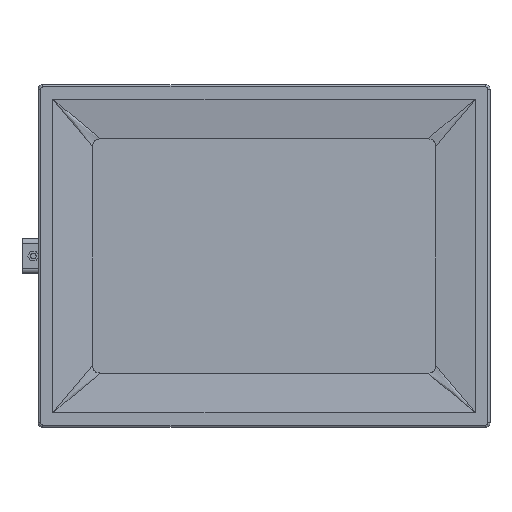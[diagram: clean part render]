
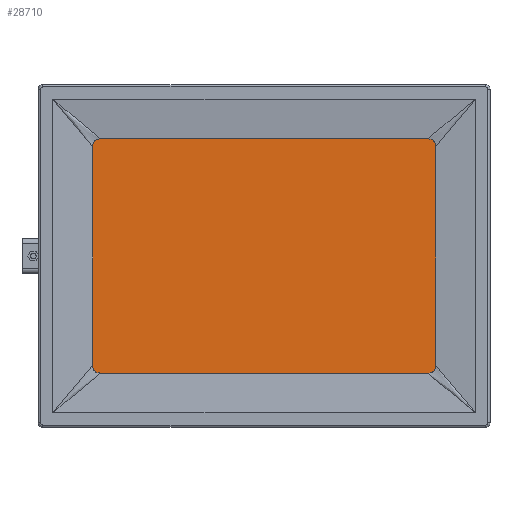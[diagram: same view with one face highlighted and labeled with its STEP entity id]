
A CAD part, top view. The second image highlights one B-rep face of the part: STEP entity #28710.
In plain terms, the highlighted planar face has unit normal (0, 0, 1).
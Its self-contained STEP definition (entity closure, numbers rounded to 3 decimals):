
#2038=DIRECTION('',(0.,-1.,0.));
#2039=VECTOR('',#2038,94.19);
#2040=CARTESIAN_POINT('',(74.036,47.095,-2.));
#2041=LINE('',#2040,#2039);
#2047=CARTESIAN_POINT('',(74.036,47.095,-2.));
#2053=CARTESIAN_POINT('',(74.036,-47.095,
-2.));
#2071=DIRECTION('',(-1.,0.,0.));
#2072=VECTOR('',#2071,141.19);
#2073=CARTESIAN_POINT('',(70.595,-50.536,
-2.));
#2074=LINE('',#2073,#2072);
#2082=CARTESIAN_POINT('',(-70.595,-50.536,
-2.));
#2083=CARTESIAN_POINT('',(-70.829,-50.536,
-2.));
#2084=CARTESIAN_POINT('',(-71.266,-50.513,
-2.));
#2085=CARTESIAN_POINT('',(-71.825,-50.42,
-2.));
#2086=CARTESIAN_POINT('',(-72.308,-50.271,
-2.));
#2087=CARTESIAN_POINT('',(-72.711,-50.074,
-2.));
#2088=CARTESIAN_POINT('',(-73.054,-49.831,
-2.));
#2089=CARTESIAN_POINT('',(-73.34,-49.544,
-2.));
#2090=CARTESIAN_POINT('',(-73.578,-49.204,
-2.));
#2091=CARTESIAN_POINT('',(-73.773,-48.8,
-2.));
#2092=CARTESIAN_POINT('',(-73.921,-48.32,
-2.));
#2093=CARTESIAN_POINT('',(-74.014,-47.759,
-2.));
#2094=CARTESIAN_POINT('',(-74.036,-47.326,
-2.));
#2095=CARTESIAN_POINT('',(-74.036,-47.095,
-2.));
#2108=DIRECTION('',(0.,1.,0.));
#2109=VECTOR('',#2108,94.19);
#2110=CARTESIAN_POINT('',(-74.036,-47.095,
-2.));
#2111=LINE('',#2110,#2109);
#2119=CARTESIAN_POINT('',(-74.036,47.095,
-2.));
#2120=CARTESIAN_POINT('',(-74.036,47.329,
-2.));
#2121=CARTESIAN_POINT('',(-74.013,47.766,
-2.));
#2122=CARTESIAN_POINT('',(-73.92,48.325,
-2.));
#2123=CARTESIAN_POINT('',(-73.771,48.808,
-2.));
#2124=CARTESIAN_POINT('',(-73.574,49.211,
-2.));
#2125=CARTESIAN_POINT('',(-73.331,49.554,
-2.));
#2126=CARTESIAN_POINT('',(-73.044,49.84,
-2.));
#2127=CARTESIAN_POINT('',(-72.704,50.078,
-2.));
#2128=CARTESIAN_POINT('',(-72.3,50.273,
-2.));
#2129=CARTESIAN_POINT('',(-71.82,50.421,
-2.));
#2130=CARTESIAN_POINT('',(-71.259,50.514,
-2.));
#2131=CARTESIAN_POINT('',(-70.826,50.536,
-2.));
#2132=CARTESIAN_POINT('',(-70.595,50.536,
-2.));
#2134=DIRECTION('',(1.,0.,0.));
#2135=VECTOR('',#2134,141.19);
#2136=CARTESIAN_POINT('',(-70.595,50.536,
-2.));
#2137=LINE('',#2136,#2135);
#2156=CARTESIAN_POINT('',(70.595,50.536,-2.));
#2157=CARTESIAN_POINT('',(70.829,50.536,-2.));
#2158=CARTESIAN_POINT('',(71.266,50.513,-2.));
#2159=CARTESIAN_POINT('',(71.825,50.42,-2.));
#2160=CARTESIAN_POINT('',(72.308,50.271,-2.));
#2161=CARTESIAN_POINT('',(72.711,50.074,-2.));
#2162=CARTESIAN_POINT('',(73.054,49.831,-2.));
#2163=CARTESIAN_POINT('',(73.34,49.544,-2.));
#2164=CARTESIAN_POINT('',(73.578,49.204,-2.));
#2165=CARTESIAN_POINT('',(73.773,48.8,-2.));
#2166=CARTESIAN_POINT('',(73.921,48.32,-2.));
#2167=CARTESIAN_POINT('',(74.014,47.759,-2.));
#2168=CARTESIAN_POINT('',(74.036,47.326,-2.));
#2169=CARTESIAN_POINT('',(74.036,47.095,-2.));
#2171=CARTESIAN_POINT('',(74.036,-47.095,
-2.));
#2172=CARTESIAN_POINT('',(74.036,-47.329,
-2.));
#2173=CARTESIAN_POINT('',(74.013,-47.766,
-2.));
#2174=CARTESIAN_POINT('',(73.92,-48.325,
-2.));
#2175=CARTESIAN_POINT('',(73.771,-48.808,
-2.));
#2176=CARTESIAN_POINT('',(73.574,-49.211,
-2.));
#2177=CARTESIAN_POINT('',(73.331,-49.554,
-2.));
#2178=CARTESIAN_POINT('',(73.044,-49.84,
-2.));
#2179=CARTESIAN_POINT('',(72.704,-50.078,
-2.));
#2180=CARTESIAN_POINT('',(72.3,-50.273,
-2.));
#2181=CARTESIAN_POINT('',(71.82,-50.421,
-2.));
#2182=CARTESIAN_POINT('',(71.259,-50.514,
-2.));
#2183=CARTESIAN_POINT('',(70.826,-50.536,
-2.));
#2184=CARTESIAN_POINT('',(70.595,-50.536,
-2.));
#25955=CARTESIAN_POINT('',(70.595,-50.536,
-2.));
#25956=CARTESIAN_POINT('',(-70.595,-50.536,
-2.));
#25957=VERTEX_POINT('',#25955);
#25958=VERTEX_POINT('',#25956);
#25963=VERTEX_POINT('',#2053);
#25990=VERTEX_POINT('',#2047);
#25991=CARTESIAN_POINT('',(-74.036,-47.095,
-2.));
#25992=CARTESIAN_POINT('',(-74.036,47.095,
-2.));
#25993=VERTEX_POINT('',#25991);
#25994=VERTEX_POINT('',#25992);
#26003=CARTESIAN_POINT('',(-70.595,50.536,
-2.));
#26004=CARTESIAN_POINT('',(70.595,50.536,
-2.));
#26005=VERTEX_POINT('',#26003);
#26006=VERTEX_POINT('',#26004);
#28688=CARTESIAN_POINT('',(-81.5,-58.,-2.));
#28689=DIRECTION('',(0.,0.,1.));
#28690=DIRECTION('',(1.,0.,0.));
#28691=AXIS2_PLACEMENT_3D('',#28688,#28689,#28690);
#28692=PLANE('',#28691);
#28694=ORIENTED_EDGE('',*,*,#28693,.T.);
#28696=ORIENTED_EDGE('',*,*,#28695,.T.);
#28698=ORIENTED_EDGE('',*,*,#28697,.T.);
#28700=ORIENTED_EDGE('',*,*,#28699,.T.);
#28702=ORIENTED_EDGE('',*,*,#28701,.T.);
#28704=ORIENTED_EDGE('',*,*,#28703,.T.);
#28705=ORIENTED_EDGE('',*,*,#28678,.T.);
#28707=ORIENTED_EDGE('',*,*,#28706,.T.);
#28708=EDGE_LOOP('',(#28694,#28696,#28698,#28700,#28702,#28704,#28705,#28707));
#28709=FACE_OUTER_BOUND('',#28708,.F.);
#28710=ADVANCED_FACE('',(#28709),#28692,.T.);
#2096=B_SPLINE_CURVE_WITH_KNOTS('',3,(#2082,#2083,#2084,#2085,#2086,#2087,#2088,
#2089,#2090,#2091,#2092,#2093,#2094,#2095),.UNSPECIFIED.,.F.,.F.,(4,1,1,1,1,1,1,
1,1,1,1,4),(0.,0.091,0.182,0.273,
0.364,0.455,0.545,0.636,
0.727,0.818,0.909,1.),.UNSPECIFIED.);
#2133=B_SPLINE_CURVE_WITH_KNOTS('',3,(#2119,#2120,#2121,#2122,#2123,#2124,#2125,
#2126,#2127,#2128,#2129,#2130,#2131,#2132),.UNSPECIFIED.,.F.,.F.,(4,1,1,1,1,1,1,
1,1,1,1,4),(0.,0.091,0.182,0.273,
0.364,0.455,0.545,0.636,
0.727,0.818,0.909,1.),.UNSPECIFIED.);
#2170=B_SPLINE_CURVE_WITH_KNOTS('',3,(#2156,#2157,#2158,#2159,#2160,#2161,#2162,
#2163,#2164,#2165,#2166,#2167,#2168,#2169),.UNSPECIFIED.,.F.,.F.,(4,1,1,1,1,1,1,
1,1,1,1,4),(0.,0.091,0.182,0.273,
0.364,0.455,0.545,0.636,
0.727,0.818,0.909,1.),.UNSPECIFIED.);
#2185=B_SPLINE_CURVE_WITH_KNOTS('',3,(#2171,#2172,#2173,#2174,#2175,#2176,#2177,
#2178,#2179,#2180,#2181,#2182,#2183,#2184),.UNSPECIFIED.,.F.,.F.,(4,1,1,1,1,1,1,
1,1,1,1,4),(0.,0.091,0.182,0.273,
0.364,0.455,0.545,0.636,
0.727,0.818,0.909,1.),.UNSPECIFIED.);
#28678=EDGE_CURVE('',#25990,#25963,#2041,.T.);
#28693=EDGE_CURVE('',#25957,#25958,#2074,.T.);
#28695=EDGE_CURVE('',#25958,#25993,#2096,.T.);
#28697=EDGE_CURVE('',#25993,#25994,#2111,.T.);
#28699=EDGE_CURVE('',#25994,#26005,#2133,.T.);
#28701=EDGE_CURVE('',#26005,#26006,#2137,.T.);
#28703=EDGE_CURVE('',#26006,#25990,#2170,.T.);
#28706=EDGE_CURVE('',#25963,#25957,#2185,.T.);
